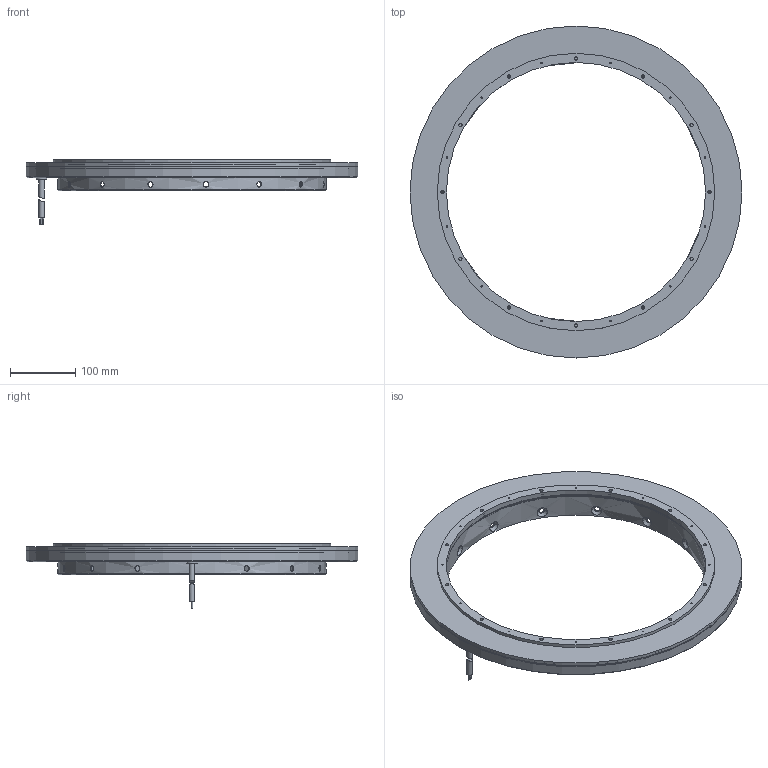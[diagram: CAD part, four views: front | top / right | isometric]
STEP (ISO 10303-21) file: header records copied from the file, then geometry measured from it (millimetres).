
FILE_DESCRIPTION(('STEP AP242'), '1');
FILE_NAME('ÄÌØÊ.401269.030 ÑÁ Èíäóêòèâíûé äàò÷èê ïîëîæåíèÿ ÈÄÏ-510', '', ('UNSPECIFIED'), ('UNSPECIFIED'), 'C3D Converter', 'C3D Toolkit', '');
FILE_SCHEMA(('AP242_MANAGED_MODEL_BASED_3D_ENGINEERING_MIM_LF { 1 0 10303 442 1 1 4 }'));
Length unit declared in the file: millimetre
Products named in the file (17): ДМШК.401269.030 СБ Индуктивный датчик положения ИДП-510; ДМШК.301111.002 СБ Статор; Корпус статора 510_23.12.2024; Винт B2.M2,5-6gx12.36.013 ГОСТ 17475-80_‚Ё苒X2\0432\X0\ B.2.M2,5-6gx12.36.013 ѓЋ‘’ 17475-80; Шайба 2,5 65Г 019 ГОСТ 6402-70_˜ ©Ў  2,5 65ѓ 019 ѓЋ‘’ 6402-70; Гайка M2,5-6H.013 ГОСТ 5915-70; STEP_ИДП-510 Плата управления; Шайба A.2,5.04.019 ГОСТ 10450-78_˜ ©Ў  A.2,5.04.019 ѓЋ‘’ 10450-78; ДМШК.758764.029 ПП катушек Статор; Винт B2.M2,5-6gx6.36.013 ГОСТ 17475-80_‚Ё苒X2\0432\X0\ B.2.M2,5-6gx6.36.013 ѓЋ‘’ 17475-80; Лепесток 1-2-4,3х14-07 ГОСТ 22376-77; Ввод кабельный gor1; провод; ДМШК.301111.001 СБ Ротор; Корпус ротора 510_22.07.2024; ДМШК.758764.028 ПП ротора.step
Assembly tree (76 placements, depth 3):
  ДМШК.401269.030 СБ Индуктивный датчик положения ИДП-510
    ДМШК.301111.002 СБ Статор
      Корпус статора 510_23.12.2024
      Винт B2.M2,5-6gx12.36.013 ГОСТ 17475-80_‚Ё苒X2\0432\X0\ B.2.M2,5-6gx12.36.013 ѓЋ‘’ 17475-80  x6
      Шайба 2,5 65Г 019 ГОСТ 6402-70_˜ ©Ў  2,5 65ѓ 019 ѓЋ‘’ 6402-70  x12
      Гайка M2,5-6H.013 ГОСТ 5915-70  x12
      STEP_ИДП-510 Плата управления
      Шайба A.2,5.04.019 ГОСТ 10450-78_˜ ©Ў  A.2,5.04.019 ѓЋ‘’ 10450-78  x6
      ДМШК.758764.029 ПП катушек Статор
      Винт B2.M2,5-6gx6.36.013 ГОСТ 17475-80_‚Ё苒X2\0432\X0\ B.2.M2,5-6gx6.36.013 ѓЋ‘’ 17475-80  x18
      Лепесток 1-2-4,3х14-07 ГОСТ 22376-77
      Ввод кабельный gor1
      провод
    ДМШК.301111.001 СБ Ротор
      Корпус ротора 510_22.07.2024
      ДМШК.758764.028 ПП ротора.step
      Винт B2.M2,5-6gx6.36.013 ГОСТ 17475-80_‚Ё苒X2\0432\X0\ B.2.M2,5-6gx6.36.013 ѓЋ‘’ 17475-80  x12
Bounding box: 510 x 510 x 99.7 mm (x, y, z)
Volume: 1943519.7 mm3; surface area: 610551.3 mm2
Topology: 16 solids, 46 shells, 1810 faces, 4721 edges, 3019 vertices
Faces by surface type: plane 1320, cone 269, cylinder 189, bspline 32
Full cylindrical faces by diameter (mm): 2 x3, 2.013 x30, 2.5 x29, 2.7 x5, 4.7 x36, 5 x12, 8.3 x15, 8.5 x2, 10.5 x12, 16.5 x1, 398 x1, 401 x1, 403.4 x1, 404 x1, 413 x1, 426 x1, 506 x2, 506.6 x2, 509 x1, 510 x1
Entity records: 85046 total; most frequent: CARTESIAN_POINT 34128, ORIENTED_EDGE 7530, DIRECTION 7110, EDGE_CURVE 3772, LINE 2688, VECTOR 2688, VERTEX_POINT 2558, AXIS2_PLACEMENT_3D 2211
